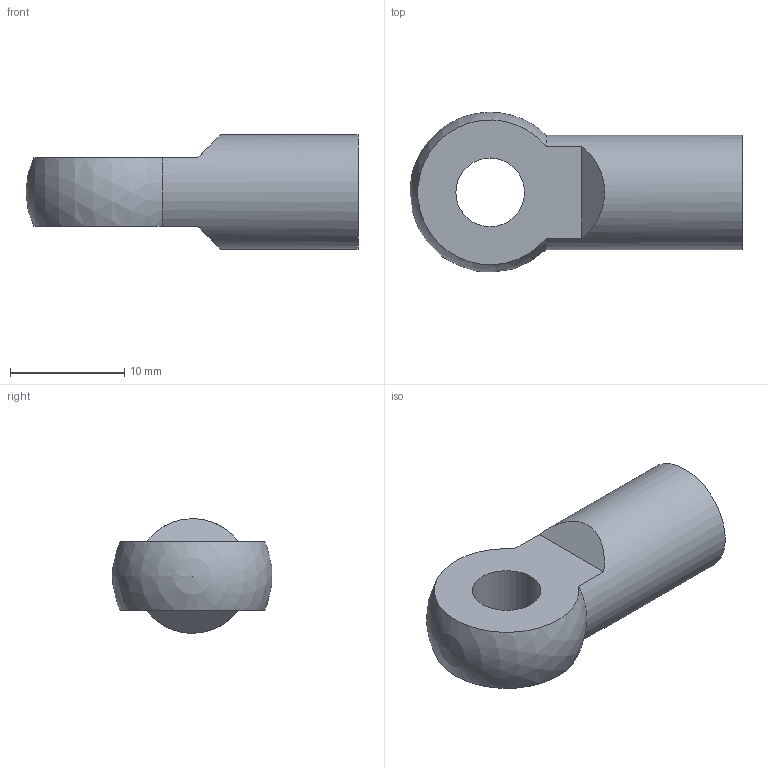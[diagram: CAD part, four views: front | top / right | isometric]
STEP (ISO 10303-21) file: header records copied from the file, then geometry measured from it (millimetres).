
FILE_DESCRIPTION( ( 'STEP AP203' ), '1' );
FILE_NAME( 'C:/Temp/Ganter_Step_05_03_2020/data/3_6/gn752/Joint piece GN 752-6-M6.stp', '2020-03-12T14:12:40', ( 'License CC BY-ND 4.0' ), ( 'CADENAS' ), ' ', 'PARTsolutions', ' ' );
FILE_SCHEMA( ( 'CONFIG_CONTROL_DESIGN' ) );
Length unit declared in the file: millimetre
Products named in the file (1): _Joint piece GN 752-6-M6
Bounding box: 29 x 13.93 x 10 mm (x, y, z)
Volume: 1596.4 mm3; surface area: 1327.5 mm2
Topology: 1 solids, 1 shells, 12 faces, 31 edges, 20 vertices
Faces by surface type: plane 5, cylinder 3, sphere 2, cone 2
Full cylindrical faces by diameter (mm): 4.917 x1, 6 x1, 10 x1
Entity records: 348 total; most frequent: DIRECTION 58, CARTESIAN_POINT 49, ORIENTED_EDGE 38, AXIS2_PLACEMENT_3D 26, EDGE_LOOP 20, EDGE_CURVE 19, VERTEX_POINT 17, FACE_OUTER_BOUND 15
